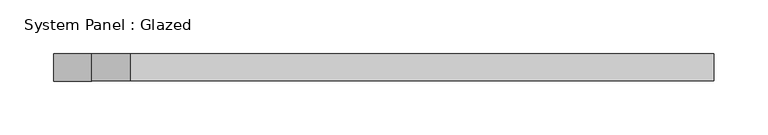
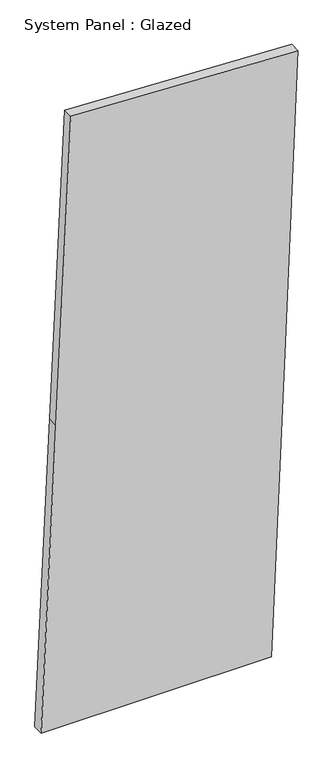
"""IFC4 building model written with IfcOpenShell, lengths in millimetres: plate geometry, System Panel : Glazed."""

from ifc_helpers import new_model, si_unit, frame, origin, place, context, project, spatial, polyline, outline, extrude, source, transform, mapped, element, save


def system_panel_glazed_b3235f12(model_context):
    return source(origin(), model_context, "Body", "SweptSolid", [
        extrude(outline(polyline([(0.0, -307.5913404), (0.0, 244.3089037), (755.426295, 275.9758889), (1509.6232363, 307.5913404), (1533.6716112, -236.3228398), (766.0461333, -271.9937856), (0.0, -307.5913404)])), frame((0.0, -44.45, 0.0), z_axis=(0.0, 1.0, 0.0), x_axis=(0.0, 0.0, 1.0)), (0.0, 0.0, 1.0), 25.4),
    ])


if __name__ == "__main__":
    model = new_model("IFC4")
    model_context = context("Model", 3, world=origin())
    ifc_project = project(units=[si_unit("LENGTHUNIT", "METRE", prefix="MILLI")], contexts=[model_context])
    site = spatial("IfcSite", under=ifc_project)
    building = spatial("IfcBuilding", under=site)
    placement = place(None, origin())
    system_panel_glazed_shape = system_panel_glazed_b3235f12(model_context)
    element("IfcPlate", 1, ObjectType="System Panel : Glazed", at=placement, inside=building, context=model_context, shape_type="MappedRepresentation", body=[
        mapped(system_panel_glazed_shape, transform((0.0, 0.0, 0.0), x_axis=(1.0, 0.0, 0.0), y_axis=(0.0, 1.0, 0.0), z_axis=(0.0, 0.0, 1.0))),
    ])
    save(model, "model.ifc")
